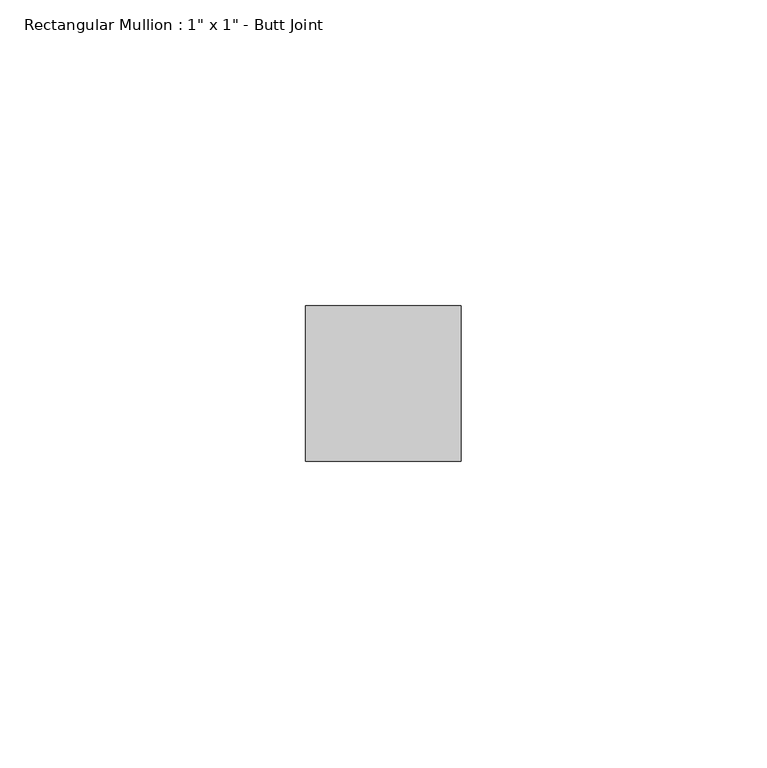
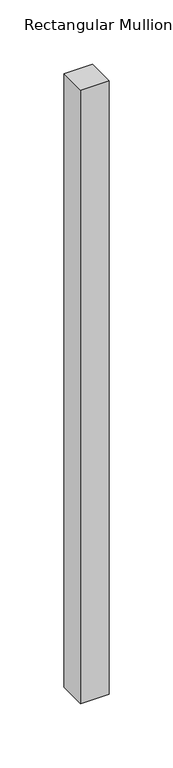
"""IFC4 building model written with IfcOpenShell, lengths in millimetres: member geometry."""

from ifc_helpers import new_model, si_unit, frame, origin, place, context, project, spatial, polyline, outline, extrude, source, transform, mapped, element, save


def member_68141a5f(model_context):
    return source(origin(), model_context, "Body", "SweptSolid", [
        extrude(outline(polyline([(12.7, 12.7), (12.7, -12.7), (-12.7, -12.7), (-12.7, 12.7), (12.7, 12.7)])), frame((0.0, 0.0, -581.66), z_axis=(0.0, 0.0, 1.0), x_axis=(1.0, 0.0, 0.0)), (0.0, 0.0, 1.0), 581.66),
    ])


if __name__ == "__main__":
    model = new_model("IFC4")
    model_context = context("Model", 3, world=origin())
    ifc_project = project(units=[si_unit("LENGTHUNIT", "METRE", prefix="MILLI")], contexts=[model_context])
    site = spatial("IfcSite", under=ifc_project)
    building = spatial("IfcBuilding", under=site)
    placement = place(None, origin())
    member_shape = member_68141a5f(model_context)
    element("IfcMember", 1, ObjectType="Rectangular Mullion : 1\" x 1\" - Butt Joint", at=placement, inside=building, context=model_context, shape_type="MappedRepresentation", body=[
        mapped(member_shape, transform((0.0, 0.0, 0.0), x_axis=(1.0, 0.0, 0.0), y_axis=(0.0, 1.0, 0.0), z_axis=(0.0, 0.0, 1.0))),
    ])
    save(model, "model.ifc")
